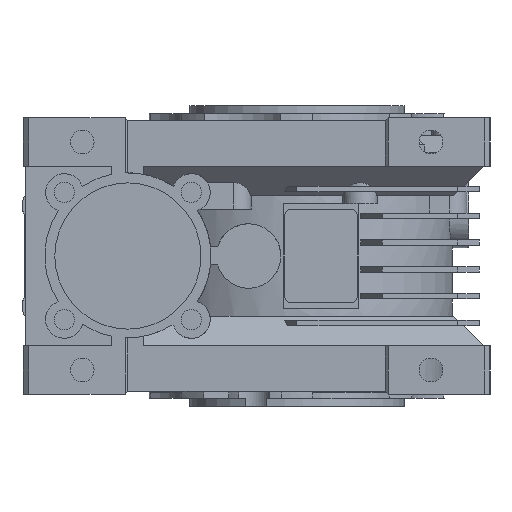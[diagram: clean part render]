
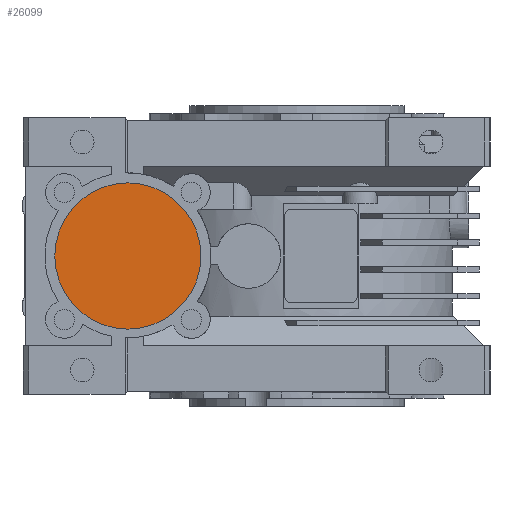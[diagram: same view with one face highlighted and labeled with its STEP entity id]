
A CAD part, left-side view. The second image highlights one B-rep face of the part: STEP entity #26099.
In plain terms, the highlighted planar face has unit normal (-1, 0, 0).
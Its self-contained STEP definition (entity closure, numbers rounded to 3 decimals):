
#199=CARTESIAN_POINT('',(-69.75,63.,27.25));
#200=VERTEX_POINT('',#199);
#201=CARTESIAN_POINT('',(-69.75,63.,0.0));
#202=DIRECTION('',(-1.0,0.0,0.0));
#203=DIRECTION('',(0.0,0.0,-1.0));
#204=AXIS2_PLACEMENT_3D('',#201,#202,#203);
#205=CIRCLE('',#204,27.25);
#206=EDGE_CURVE('',#200,#200,#205,.T.);
#26091=CARTESIAN_POINT('',(-69.75,50.0,0.));
#26092=DIRECTION('',(1.0,0.0,0.0));
#26093=DIRECTION('',(0.0,0.0,-1.0));
#26094=AXIS2_PLACEMENT_3D('',#26091,#26092,#26093);
#26095=PLANE('',#26094);
#26096=ORIENTED_EDGE('',*,*,#206,.T.);
#26097=EDGE_LOOP('',(#26096));
#26098=FACE_OUTER_BOUND('',#26097,.T.);
#26099=ADVANCED_FACE('',(#26098),#26095,.F.);
